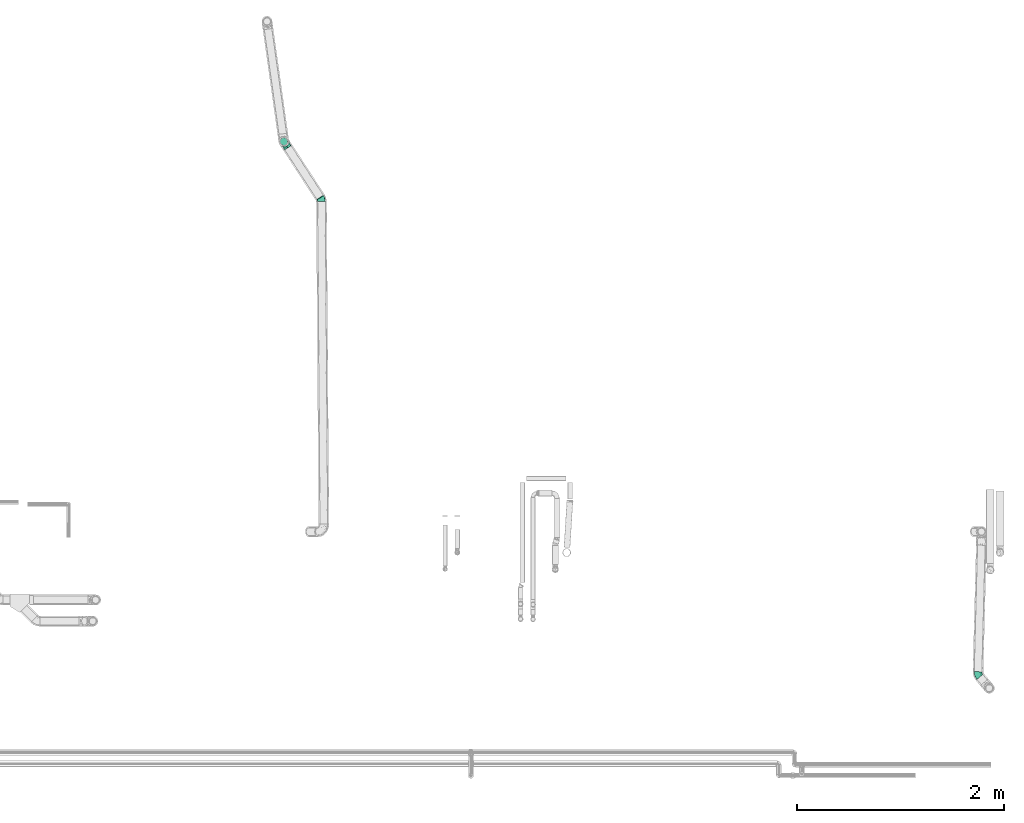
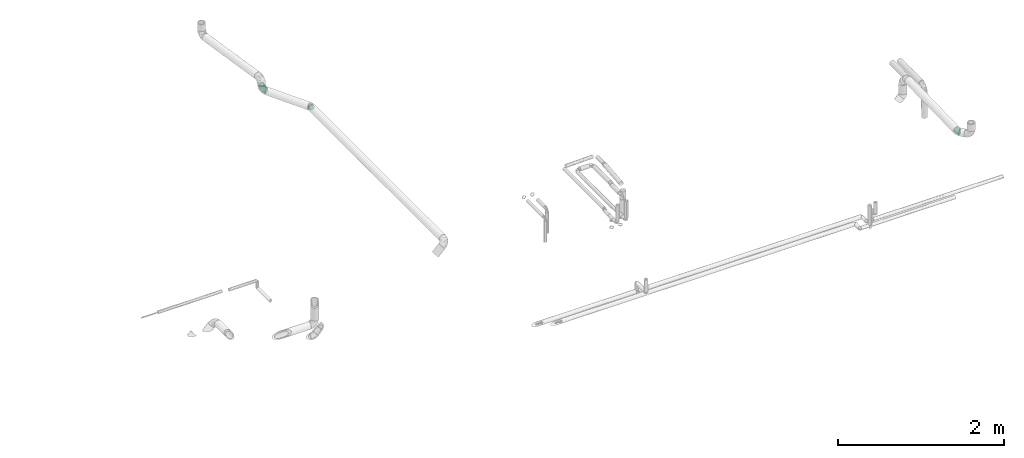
# One storey, part 145 of 156: 3 flow fittings.
"""IFC2X3 building model written with IfcOpenShell, lengths in millimetres."""

from ifc_helpers import new_model, entity, si_unit, converted_unit, derived_unit, direction, frame, origin_with_axes, place, context, subcontext, project, spatial, open_shell, surface_model, source, transform, mapped, type_object, element, save


model = new_model("IFC2X3")

# Units and contexts
model_context = context("Model", 3, precision=0.01, world=frame((0.0, 4.29681676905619e-09, 0.0)), true_north=direction((4.01073788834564e-13, 1.0)))
plan_context = context("Plan", 3, precision=0.01, world=frame((0.0, 4.29681676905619e-09, 0.0)), true_north=direction((4.01073788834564e-13, 1.0)))
body_context = subcontext(model_context, "Body", "Model", "MODEL_VIEW")
ifc_project = project(units=[converted_unit("PLANEANGLEUNIT", "DEGREE", entity("IfcPositiveLengthMeasure", 0.0174532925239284), si_unit("PLANEANGLEUNIT", "RADIAN"), dimensions=[0, 0, 0, 0, 0, 0, 0]), si_unit("AREAUNIT", "SQUARE_METRE"), si_unit("LENGTHUNIT", "METRE", prefix="MILLI"), si_unit("MASSUNIT", "GRAM", prefix="KILO"), si_unit("POWERUNIT", "WATT"), si_unit("PRESSUREUNIT", "PASCAL", prefix="KILO"), si_unit("FORCEUNIT", "NEWTON", prefix="KILO"), si_unit("ELECTRICVOLTAGEUNIT", "VOLT"), si_unit("ELECTRICCURRENTUNIT", "AMPERE"), si_unit("THERMODYNAMICTEMPERATUREUNIT", "DEGREE_CELSIUS"), si_unit("TIMEUNIT", "SECOND"), si_unit("VOLUMEUNIT", "CUBIC_METRE"), derived_unit("LINEARVELOCITYUNIT", [(si_unit("LENGTHUNIT", "METRE"), 1), (si_unit("TIMEUNIT", "SECOND"), -1)]), derived_unit("VOLUMETRICFLOWRATEUNIT", [(si_unit("VOLUMEUNIT", "CUBIC_METRE"), 1), (si_unit("TIMEUNIT", "SECOND"), -1)]), derived_unit("THERMALTRANSMITTANCEUNIT", [(si_unit("POWERUNIT", "WATT"), 1), (si_unit("THERMODYNAMICTEMPERATUREUNIT", "KELVIN"), -1), (si_unit("AREAUNIT", "SQUARE_METRE"), -1)]), derived_unit("SOUNDPRESSUREUNIT", [(si_unit("PRESSUREUNIT", "PASCAL"), 1)])], contexts=[model_context, plan_context])

# Site, building, storey
site_placement = place(None, frame((0.0, -4.29681676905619e-09, 0.0), z_axis=(0.0, 0.0, 1.0), x_axis=(1.0, 0.0, 0.0)))
site = spatial("IfcSite", under=ifc_project, at=site_placement, CompositionType="ELEMENT")
building_placement = place(site_placement, frame((0.0, 4.29681676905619e-09, 0.0), z_axis=(0.0, 0.0, 1.0), x_axis=(1.0, 0.0, 0.0)))
building = spatial("IfcBuilding", under=site, at=building_placement, Name="mc-building", CompositionType="ELEMENT")
storey_placement = place(building_placement, frame((0.0, 0.0, 205200.0), z_axis=(0.0, 0.0, 1.0), x_axis=(1.0, 0.0, 0.0)))
storey = spatial("IfcBuildingStorey", under=building, at=storey_placement, Name="Nivå D + 1,2 m", CompositionType="ELEMENT", Elevation=205200.0)

# Flow fittings
pipe_fitting_type = type_object("IfcPipeFittingType", Name="magi_pipe_elbow_short_001", PredefinedType="BEND")
shared_shape_1 = source(origin_with_axes(), body_context, "Body", "SurfaceModel", [
    surface_model("IfcShellBasedSurfaceModel", [(-28.41763, 18.75, -32.47595), (-28.41763, 9.70571, -36.22222), (-28.41763, 0.0, -37.5), (-28.41763, 26.5165, -26.5165), (-28.41763, 36.22222, -9.70571), (-28.41763, 32.47595, -18.75), (-28.41763, -26.5165, -26.5165), (-28.41763, -32.47595, -18.75), (-28.41763, -18.75, -32.47595), (-28.41763, -9.70571, -36.22222), (-28.41763, -36.22222, -9.70571), (-28.41763, -37.5, 0.0), (-28.41763, -36.22222, 9.70571), (-28.41763, 36.22222, 9.70571), (-28.41763, 37.5, 0.0), (-28.41763, 26.5165, 26.5165), (-28.41763, 32.47595, 18.75), (-28.41763, 9.70571, 36.22222), (-28.41763, 18.75, 32.47595), (-28.41763, 0.0, 37.5), (-28.41763, -32.47595, 18.75), (-28.41763, -26.5165, 26.5165), (-28.41763, -18.75, 32.47595), (-28.41763, -9.70571, 36.22222), (21.28237, 18.83142, -37.5), (14.85072, 26.10017, -36.22222), (8.85737, 32.87356, -32.47595), (3.71077, 38.69001, -26.5165), (-0.23836, 43.15313, -18.75), (-2.72089, 45.95876, -9.70571), (42.80311, -5.49029, -18.75), (3.71077, 38.69001, 26.5165), (27.71403, 11.56267, -36.22222), (38.85398, -1.02718, -26.5165), (33.70737, 4.78927, -32.47595), (45.28563, -8.29592, -9.70571), (45.28563, -8.29592, 9.70571), (46.13238, -9.25287, 0.0), (-3.56763, 46.91571, 0.0), (-2.72089, 45.95876, 9.70571), (-0.23836, 43.15313, 18.75), (8.85737, 32.87356, 32.47595), (14.85072, 26.10017, 36.22222), (38.85398, -1.02718, 26.5165), (42.80311, -5.49029, 18.75), (33.70737, 4.78927, 32.47595), (21.28237, 18.83142, 37.5), (27.71403, 11.56267, 36.22222), (-10.798, -28.82446, 22.0821), (-5.33206, -32.6567, 13.18915), (9.11839, -24.06531, 21.19155), (-9.84929, -35.24731, 0.0), (-1.51679, -34.23642, 0.0), (-6.41198, -34.73324, 6.58129), (-6.68397, -21.31096, 29.03459), (27.18779, -14.43158, 22.0821), (-13.74781, -13.87457, 34.33555), (3.81193, -10.06046, 33.93339), (9.63082, 15.35913, 37.25771), (-9.27145, -3.65719, 37.02434), (-3.04953, 8.04834, 37.34523), (-17.39064, 5.12064, 37.25771), (19.12779, -11.53084, 29.03459), (19.49014, -1.28065, 34.33555), (-12.15612, 15.60061, 35.01843), (-9.57942, 25.28207, 30.48899), (12.69398, -26.25669, 15.19306), (11.08214, -29.24806, 8.68485), (-10.76397, 32.65979, 23.6194), (-13.98235, 36.90231, 15.24979), (27.81859, -21.76322, 6.58129), (30.73349, -19.87042, 0.0), (-14.31275, 39.37123, 7.79517), (25.63376, -20.92369, 13.18915), (10.15962, 3.88702, 37.03251), (2.04407, 21.73015, 34.93309), (-15.13062, 39.93284, 0.0), (11.15324, -29.43572, 0.0), (23.82328, -24.63502, 0.0), (-10.18448, -3.8214, -37.03251), (-6.41198, -34.73324, -6.58129), (11.08214, -29.24806, -8.68485), (9.36702, 3.40496, -37.02434), (-17.39064, 5.12064, -37.25771), (-13.58127, 31.59231, -23.6194), (-9.57942, 25.28207, -30.48899), (19.12779, -11.53084, -29.03459), (25.63377, -20.92369, -13.18915), (-15.37098, 38.97027, -7.79517), (-13.98235, 36.90231, -15.24979), (-1.23411, 19.73898, -35.01843), (-15.93068, 14.91949, -34.93309), (-5.33206, -32.6567, -13.18915), (27.18779, -14.43158, -22.0821), (-10.798, -28.82446, -22.0821), (9.11839, -24.06531, -21.19155), (7.89273, -28.0759, -15.19306), (-6.68397, -21.31096, -29.03459), (-13.74781, -13.87457, -34.33555), (19.49014, -1.28065, -34.33555), (3.81193, -10.06046, -33.93339), (-3.04953, 8.04834, -37.34523), (27.81859, -21.76322, -6.58129), (9.63082, 15.35912, -37.25771)], [open_shell([[[0, 1, 2]], [[3, 0, 2]], [[4, 5, 3]], [[6, 3, 2]], [[4, 3, 7]], [[8, 6, 9]], [[6, 2, 9]], [[10, 11, 7]], [[3, 6, 7]], [[7, 11, 12]], [[12, 4, 7]], [[13, 14, 15]], [[16, 13, 15]], [[17, 18, 15]], [[14, 17, 15]], [[19, 17, 14]], [[20, 21, 12]], [[22, 12, 21]], [[23, 19, 22]], [[12, 22, 19]], [[19, 14, 12]], [[4, 12, 14]], [[24, 25, 26]], [[24, 26, 27]], [[27, 28, 29]], [[24, 27, 30]], [[31, 30, 27]], [[32, 33, 34]], [[32, 24, 33]], [[35, 36, 37]], [[33, 24, 30]], [[35, 30, 36]], [[38, 27, 29]], [[27, 39, 31]], [[31, 39, 40]], [[31, 41, 42]], [[42, 30, 31]], [[30, 42, 36]], [[36, 43, 44]], [[43, 36, 45]], [[45, 46, 47]], [[46, 45, 36]], [[36, 42, 46]], [[27, 38, 39]], [[48, 49, 50]], [[51, 52, 53]], [[22, 21, 54]], [[44, 43, 55]], [[56, 54, 57]], [[48, 21, 20]], [[46, 42, 58]], [[23, 22, 56]], [[59, 60, 61]], [[19, 23, 59]], [[62, 55, 43]], [[45, 47, 63]], [[61, 17, 19]], [[18, 64, 65]], [[12, 51, 53]], [[41, 31, 65]], [[66, 49, 67]], [[65, 15, 18]], [[48, 54, 21]], [[68, 15, 65]], [[13, 16, 69]], [[36, 70, 71]], [[72, 14, 13]], [[73, 66, 67]], [[49, 53, 67]], [[18, 17, 64]], [[74, 60, 59]], [[43, 45, 62]], [[15, 68, 16]], [[74, 47, 46]], [[40, 39, 69]], [[73, 44, 55]], [[60, 58, 75]], [[62, 45, 63]], [[68, 69, 16]], [[70, 36, 73]], [[49, 48, 20]], [[61, 64, 17]], [[55, 62, 50]], [[13, 69, 72]], [[20, 12, 49]], [[76, 72, 38]], [[54, 62, 57]], [[39, 72, 69]], [[57, 74, 59]], [[31, 40, 68]], [[57, 63, 74]], [[68, 65, 31]], [[74, 46, 58]], [[42, 41, 75]], [[75, 65, 64]], [[56, 59, 23]], [[69, 68, 40]], [[73, 36, 44]], [[54, 48, 50]], [[62, 54, 50]], [[55, 50, 66]], [[54, 56, 22]], [[59, 56, 57]], [[74, 63, 47]], [[62, 63, 57]], [[65, 75, 41]], [[60, 75, 64]], [[12, 11, 51]], [[67, 53, 52]], [[12, 53, 49]], [[77, 78, 67]], [[67, 78, 70]], [[71, 70, 78]], [[71, 37, 36]], [[67, 70, 73]], [[59, 61, 19]], [[64, 61, 60]], [[75, 58, 42]], [[74, 58, 60]], [[38, 72, 39]], [[72, 76, 14]], [[55, 66, 73]], [[49, 66, 50]], [[67, 52, 77]], [[9, 2, 79]], [[80, 81, 52]], [[24, 32, 82]], [[2, 1, 83]], [[84, 85, 3]], [[34, 33, 86]], [[5, 84, 3]], [[30, 35, 87]], [[4, 88, 89]], [[26, 25, 90]], [[10, 80, 51]], [[1, 0, 91]], [[80, 10, 92]], [[87, 93, 30]], [[94, 95, 96]], [[94, 92, 7]], [[6, 8, 97]], [[97, 86, 95]], [[10, 7, 92]], [[6, 94, 7]], [[98, 8, 9]], [[99, 82, 32]], [[89, 84, 5]], [[100, 98, 79]], [[14, 76, 88]], [[97, 94, 6]], [[38, 29, 88]], [[100, 79, 82]], [[27, 26, 85]], [[89, 5, 4]], [[84, 27, 85]], [[98, 97, 8]], [[90, 85, 26]], [[101, 82, 79]], [[85, 90, 91]], [[3, 85, 0]], [[35, 71, 102]], [[103, 25, 24]], [[99, 32, 34]], [[96, 87, 81]], [[30, 93, 33]], [[100, 99, 86]], [[93, 86, 33]], [[101, 103, 82]], [[95, 93, 87]], [[79, 2, 83]], [[102, 71, 78]], [[103, 90, 25]], [[101, 83, 91]], [[80, 92, 81]], [[94, 97, 95]], [[86, 97, 100]], [[29, 28, 89]], [[29, 89, 88]], [[84, 89, 28]], [[27, 84, 28]], [[86, 93, 95]], [[79, 98, 9]], [[97, 98, 100]], [[86, 99, 34]], [[82, 99, 100]], [[85, 91, 0]], [[101, 91, 90]], [[51, 80, 52]], [[51, 11, 10]], [[96, 81, 92]], [[102, 81, 87]], [[102, 78, 81]], [[35, 37, 71]], [[52, 81, 77]], [[35, 102, 87]], [[91, 83, 1]], [[79, 83, 101]], [[82, 103, 24]], [[90, 103, 101]], [[14, 88, 4]], [[88, 76, 38]], [[94, 96, 92]], [[87, 96, 95]], [[81, 78, 77]]])]),
])
flow_fitting_1_placement = place(storey_placement, frame((347928.57176, 459787.38101, 4377.40570999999), z_axis=(0.0138610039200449, 0.0116310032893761, 0.999836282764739), x_axis=(-0.0261559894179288, -0.999585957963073, 0.0119906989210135)))
element("IfcFlowFitting", 1, at=flow_fitting_1_placement, inside=storey, type_object=pipe_fitting_type, Name="magi_pipe_elbow_short_001", context=body_context, shape_type="MappedRepresentation", body=[
    mapped(shared_shape_1, transform((0.0, 0.0, 0.0), scale=1.0)),
])
shared_shape_2 = source(origin_with_axes(), body_context, "Body", "SurfaceModel", [
    surface_model("IfcShellBasedSurfaceModel", [(-22.01566, 18.75, -32.47595), (-22.01566, 9.70571, -36.22222), (-22.01566, 0.0, -37.5), (-22.01566, 26.5165, -26.5165), (-22.01566, 36.22222, -9.70571), (-22.01566, 32.47595, -18.75), (-22.01566, -26.5165, -26.5165), (-22.01566, -32.47595, -18.75), (-22.01566, -18.75, -32.47595), (-22.01566, -9.70571, -36.22222), (-22.01566, -36.22222, -9.70571), (-22.01566, -37.5, 0.0), (-22.01566, -36.22222, 9.70571), (-22.01566, 36.22222, 9.70571), (-22.01566, 37.5, 0.0), (-22.01566, 26.5165, 26.5165), (-22.01566, 32.47595, 18.75), (-22.01566, 9.70571, 36.22222), (-22.01566, 18.75, 32.47595), (-22.01566, 0.0, 37.5), (-22.01566, -32.47595, 18.75), (-22.01566, -26.5165, 26.5165), (-22.01566, -18.75, 32.47595), (-22.01566, -9.70571, 36.22222), (18.5226, 11.89969, -37.5), (13.27656, 20.06547, -36.22222), (8.38803, 27.67476, -32.47595), (4.19016, 34.20902, -26.5165), (0.96902, 39.22292, -18.75), (32.85504, -10.40964, -26.5165), (38.10108, -18.57543, 9.70571), (23.76864, 3.7339, -36.22222), (28.65716, -3.87539, -32.47595), (38.10108, -18.57543, -9.70571), (36.07618, -15.42355, -18.75), (38.79173, -19.65047, 0.0), (-1.05588, 42.3748, -9.70571), (4.19016, 34.20902, 26.5165), (-1.74653, 43.44984, 0.0), (-1.05588, 42.3748, 9.70571), (0.96902, 39.22292, 18.75), (8.38803, 27.67476, 32.47595), (13.27656, 20.06547, 36.22222), (18.5226, 11.89969, 37.5), (32.85504, -10.40964, 26.5165), (36.07618, -15.42355, 18.75), (28.65716, -3.87539, 32.47595), (23.76864, 3.7339, 36.22222), (-8.87768, -29.2574, 22.39034), (-2.48765, -21.51797, 29.24444), (3.43377, -11.69771, 34.21184), (20.66878, -19.35894, 24.29669), (-4.25907, -3.69487, 37.06837), (-3.51938, -34.84137, 0.0), (2.81839, -34.12159, 6.6158), (-2.00913, 6.84445, 37.2894), (-1.75195, -33.08449, 13.54681), (7.699, -26.22792, 21.81873), (9.71094, -3.15427, 36.31605), (-9.15125, 31.17525, 23.37151), (-7.14766, 24.34971, 30.21341), (19.74477, -26.72271, 13.56362), (16.36217, -15.58472, 29.32008), (-11.45348, 39.01819, 0.0), (-10.58265, 36.05156, 14.91061), (-3.45693, 16.49394, 34.93879), (9.67087, -32.94542, 0.0), (25.59839, -26.17608, 7.10936), (21.7931, -27.41109, 0.0), (7.05401, 3.45293, 37.43381), (-6.46526, -7.90267, -36.31605), (-7.80115, -0.90768, -37.43381), (17.18651, -29.80928, -6.67672), (5.58043, -0.80656, -37.06837), (-2.00913, 6.84444, -37.2894), (-9.15125, 31.17525, -23.37151), (2.81545, -34.1155, -6.65247), (-7.14767, 24.3497, -30.21342), (19.35648, -26.88828, -13.54681), (-10.58265, 36.05156, -14.91061), (13.72363, -16.75927, -29.24444), (-5.34241, -21.95593, -29.32008), (-6.92572, -27.45909, -24.29669), (-6.0067, 15.74548, -34.93879), (-2.16812, -33.15506, -13.56362), (7.699, -26.22792, -21.81873), (3.43377, -11.69771, -34.21184), (23.28304, -19.81688, -22.39034)], [open_shell([[[0, 1, 2]], [[3, 0, 2]], [[4, 5, 3]], [[6, 3, 2]], [[4, 3, 7]], [[8, 6, 9]], [[6, 2, 9]], [[10, 11, 7]], [[3, 6, 7]], [[7, 11, 12]], [[12, 4, 7]], [[13, 14, 15]], [[16, 13, 15]], [[17, 18, 15]], [[14, 17, 15]], [[19, 17, 14]], [[20, 21, 12]], [[22, 12, 21]], [[23, 19, 22]], [[12, 22, 19]], [[19, 14, 12]], [[4, 12, 14]], [[24, 25, 26]], [[24, 26, 27]], [[24, 28, 29]], [[28, 24, 27]], [[29, 28, 30]], [[31, 29, 32]], [[31, 24, 29]], [[29, 33, 34]], [[33, 29, 30]], [[30, 35, 33]], [[28, 36, 30]], [[37, 38, 39]], [[37, 39, 40]], [[37, 41, 42]], [[38, 37, 30]], [[43, 37, 42]], [[30, 44, 45]], [[44, 30, 46]], [[46, 43, 47]], [[43, 46, 30]], [[30, 37, 43]], [[38, 30, 36]], [[20, 48, 21]], [[49, 50, 22]], [[22, 21, 49]], [[44, 51, 45]], [[19, 23, 52]], [[23, 22, 50]], [[12, 53, 54]], [[52, 55, 19]], [[19, 55, 17]], [[43, 42, 55]], [[48, 56, 57]], [[47, 58, 46]], [[15, 59, 16]], [[60, 15, 18]], [[61, 56, 54]], [[61, 45, 51]], [[62, 51, 44]], [[63, 13, 39]], [[20, 12, 56]], [[63, 14, 13]], [[13, 16, 64]], [[60, 65, 41]], [[17, 55, 65]], [[48, 49, 21]], [[66, 54, 53]], [[67, 66, 68]], [[58, 69, 52]], [[46, 62, 44]], [[37, 40, 59]], [[69, 58, 47]], [[67, 35, 30]], [[56, 61, 57]], [[61, 67, 30]], [[49, 62, 50]], [[12, 54, 56]], [[59, 64, 16]], [[67, 54, 66]], [[12, 11, 53]], [[39, 13, 64]], [[38, 63, 39]], [[58, 52, 50]], [[23, 50, 52]], [[57, 62, 49]], [[42, 65, 55]], [[41, 37, 60]], [[37, 59, 60]], [[50, 62, 46]], [[59, 40, 64]], [[42, 41, 65]], [[65, 60, 18]], [[60, 59, 15]], [[45, 61, 30]], [[40, 39, 64]], [[17, 65, 18]], [[62, 57, 51]], [[51, 57, 61]], [[56, 48, 20]], [[49, 48, 57]], [[46, 58, 50]], [[69, 47, 43]], [[43, 55, 69]], [[55, 52, 69]], [[54, 67, 61]], [[35, 67, 68]], [[70, 9, 71]], [[33, 68, 72]], [[24, 31, 73]], [[2, 1, 74]], [[75, 3, 5]], [[10, 76, 53]], [[3, 75, 77]], [[34, 33, 78]], [[79, 4, 36]], [[32, 29, 80]], [[81, 82, 6]], [[1, 83, 74]], [[76, 10, 84]], [[75, 79, 28]], [[36, 28, 79]], [[85, 78, 84]], [[8, 81, 6]], [[25, 83, 26]], [[7, 84, 10]], [[82, 7, 6]], [[8, 9, 70]], [[70, 73, 86]], [[85, 81, 80]], [[27, 26, 77]], [[4, 14, 63]], [[33, 35, 68]], [[63, 38, 36]], [[86, 81, 8]], [[78, 72, 76]], [[79, 5, 4]], [[75, 28, 27]], [[86, 80, 81]], [[25, 74, 83]], [[71, 73, 70]], [[1, 0, 83]], [[3, 77, 0]], [[84, 7, 82]], [[24, 74, 25]], [[86, 31, 32]], [[87, 80, 29]], [[77, 83, 0]], [[32, 80, 86]], [[78, 85, 87]], [[83, 77, 26]], [[72, 66, 76]], [[77, 75, 27]], [[53, 76, 66]], [[87, 29, 34]], [[31, 86, 73]], [[74, 24, 73]], [[53, 11, 10]], [[4, 63, 36]], [[78, 76, 84]], [[75, 5, 79]], [[81, 85, 82]], [[82, 85, 84]], [[78, 87, 34]], [[80, 87, 85]], [[8, 70, 86]], [[71, 9, 2]], [[2, 74, 71]], [[74, 73, 71]], [[33, 72, 78]], [[66, 72, 68]]])]),
])
flow_fitting_2_placement = place(storey_placement, frame((341591.27609, 464375.53834, 4178.01248999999), z_axis=(0.110567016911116, -0.0110580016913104, 0.993807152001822), x_axis=(-0.00728705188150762, 0.99990220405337, 0.0119365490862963)))
element("IfcFlowFitting", 2, at=flow_fitting_2_placement, inside=storey, type_object=pipe_fitting_type, Name="magi_pipe_elbow_short_001", context=body_context, shape_type="MappedRepresentation", body=[
    mapped(shared_shape_2, transform((0.0, 0.0, 0.0), scale=1.0)),
])
shared_shape_3 = source(origin_with_axes(), body_context, "Body", "SurfaceModel", [
    surface_model("IfcShellBasedSurfaceModel", [(-69.93863, 18.75, -32.47595), (-69.93863, 9.70571, -36.22222), (-69.93863, 0.0, -37.5), (-69.93863, 26.5165, -26.5165), (-69.93863, 36.22222, -9.70571), (-69.93863, 32.47595, -18.75), (-69.93863, -26.5165, -26.5165), (-69.93863, -32.47595, -18.75), (-69.93863, -18.75, -32.47595), (-69.93863, -9.70571, -36.22222), (-69.93863, -36.22222, -9.70571), (-69.93863, -37.5, 0.0), (-69.93863, -36.22222, 9.70571), (-69.93863, 36.22222, 9.70571), (-69.93863, 37.5, 0.0), (-69.93863, 26.5165, 26.5165), (-69.93863, 32.47595, 18.75), (-69.93863, 9.70571, 36.22222), (-69.93863, 18.75, 32.47595), (-69.93863, 0.0, 37.5), (-69.93863, -32.47595, 18.75), (-69.93863, -26.5165, 26.5165), (-69.93863, -18.75, 32.47595), (-69.93863, -9.70571, 36.22222), (4.87867, 69.76827, -37.5), (-4.8034, 70.4453, -36.22222), (-13.82565, 71.0762, -32.47595), (-21.57324, 71.61796, -26.5165), (-21.57324, 71.61796, 26.5165), (-27.51817, 72.03367, -18.75), (31.33058, 67.91857, -26.5165), (-4.8034, 70.4453, 36.22222), (37.27552, 67.50286, -18.75), (14.56074, 69.09123, -36.22222), (23.583, 68.46033, -32.47595), (42.28733, 67.1524, 0.0), (41.01265, 67.24153, -9.70571), (41.01265, 67.24153, 9.70571), (-31.25531, 72.295, -9.70571), (-32.52998, 72.38413, 0.0), (-31.25531, 72.295, 9.70571), (-27.51817, 72.03367, 18.75), (-13.82565, 71.0762, 32.47595), (4.87867, 69.76827, 37.5), (31.33058, 67.91857, 26.5165), (37.27552, 67.50286, 18.75), (14.56074, 69.09123, 36.22222), (23.583, 68.46033, 32.47595), (-45.69338, -32.87098, 11.89901), (-50.03256, -29.09382, 21.1302), (-36.67148, -32.46882, 0.0), (-51.46898, -34.70673, 0.0), (12.45376, -0.53139, 7.34163), (-0.72944, -12.73742, 7.4689), (5.92352, -6.3522, 0.0), (-51.44542, 5.17105, 37.39802), (-47.00572, 16.00336, 35.62712), (22.98598, 13.85218, 9.64412), (18.22688, 5.12087, 0.0), (-49.90347, -14.08102, 33.76915), (-25.53856, -9.46245, 31.45172), (-33.86322, -0.72386, 36.4339), (-43.19053, -21.36148, 27.9464), (-15.42185, -21.96371, 9.64412), (-21.52566, -25.14704, 0.0), (-6.37984, -17.82527, 0.0), (-4.46662, 4.78987, 31.06831), (-10.33963, -9.54757, 24.43929), (-32.49049, 57.95711, 16.12505), (-1.5698, 51.68082, 37.39802), (-12.68542, 48.00755, 35.62712), (-7.3866, 21.60948, 36.7946), (-15.19962, 6.66636, 35.33591), (-0.67838, 17.83903, 34.45515), (-57.55009, 22.99743, 30.69505), (-42.98231, 27.43131, 31.5146), (-53.11753, -4.98001, 36.8912), (-20.07206, 15.20376, 37.39074), (-10.57772, 34.57872, 37.36462), (-53.31894, 40.31849, 8.42231), (-55.54951, 36.45422, 16.12505), (24.32226, 41.59522, 27.9464), (-53.14599, 31.44077, 24.58569), (-36.62046, 39.9868, 26.36458), (-44.22612, 39.71272, 20.59485), (-34.82766, 48.00168, 21.52219), (-35.12813, 12.61591, 37.33055), (17.52781, 48.79966, 33.76915), (32.51304, 47.88119, 21.1302), (24.61256, 24.02032, 18.84819), (35.97831, 43.2891, 11.89901), (-27.48708, 55.68406, 24.53426), (-30.15121, -27.91903, 12.53756), (8.67317, 52.64075, 36.8912), (-42.54075, 45.61938, 13.90416), (-35.40213, 58.27675, 8.04145), (-43.1772, 47.98771, 6.24805), (31.40066, 27.8753, 7.41095), (34.9478, 34.31724, 0.0), (38.21248, 48.92259, 0.0), (-25.67869, -22.87703, 18.84819), (-51.94939, 42.09655, 0.0), (18.77506, 23.90332, 25.62745), (11.22088, 24.81628, 31.45172), (9.42594, 7.8315, 23.80813), (-38.3702, 54.75935, 0.0), (-26.05749, -16.53932, 26.51945), (-29.82949, 32.78482, 33.54184), (-23.94639, 45.64685, 31.44032), (-18.82404, 59.54084, 30.6552), (-36.02464, 23.1457, 35.15971), (26.58734, 19.71905, 0.0), (-24.76423, 26.55638, 36.46207), (3.08428, 33.73024, 36.4339), (-9.56044, -15.39665, 16.4356), (4.82568, -5.17491, 14.39912), (16.02605, 8.46313, 16.43559), (-53.63102, 31.30445, -24.53426), (-26.25452, -17.83023, -25.39215), (-25.53856, -9.46245, -31.45172), (-10.33963, -9.54757, -24.43929), (-51.44542, 5.17105, -37.39802), (17.52781, 48.79966, -33.76915), (11.22088, 24.81628, -31.45172), (3.08428, 33.73024, -36.4339), (-47.00572, 16.00336, -35.62712), (-27.65691, 55.20973, -24.58569), (-55.66527, 39.38108, -8.04144), (18.25428, 23.82543, -26.06047), (24.32226, 41.59522, -27.9464), (-42.54076, 45.61938, -13.90415), (-55.54951, 36.45422, -16.12505), (12.45376, -0.53139, -7.34163), (-0.72944, -12.73742, -7.4689), (4.82568, -5.17491, -14.39912), (-43.86525, 27.07223, -31.44032), (-30.62415, 32.04378, -33.54184), (9.42595, 7.8315, -23.80813), (-21.04158, 8.87601, -36.7946), (-5.58985, 15.62762, -35.33591), (-17.74826, 1.92111, -34.45515), (-58.0827, 22.93154, -30.6552), (-45.69338, -32.87098, -11.89901), (-37.33488, 39.32059, -26.36458), (-50.03256, -29.09382, -21.1302), (-15.42185, -21.96371, -9.64412), (-36.53093, 46.8886, -20.59485), (-45.4553, 38.09125, -21.5222), (-49.90347, -14.08102, -33.76915), (-53.11753, -4.98001, -36.8912), (-25.67869, -22.87703, -18.84819), (-24.36619, 44.79112, -31.5146), (-12.68542, 48.00755, -35.62712), (-20.57637, 37.55144, -35.15971), (-36.50094, 56.00154, -8.42231), (-44.85893, 46.41948, -6.24805), (-32.49049, 57.95711, -16.12505), (-1.5698, 51.68082, -37.39802), (-18.92692, 59.01412, -30.69505), (35.97831, 43.2891, -11.89901), (32.51304, 47.88119, -21.1302), (8.67317, 52.64075, -36.8912), (-43.19053, -21.36148, -27.9464), (-13.76657, 21.08372, -37.39074), (-33.75662, 12.96404, -37.36462), (-10.13476, 35.9226, -37.33055), (22.98598, 13.85217, -9.64412), (-29.9978, -29.37969, -7.41095), (29.95426, 28.13023, -12.53756), (24.61256, 24.02032, -18.84819), (-24.76423, 26.55638, -36.46207), (-33.86322, -0.72386, -36.4339), (-4.46662, 4.78986, -31.06831), (-9.56044, -15.39665, -16.43559), (16.02605, 8.46313, -16.43559)], [open_shell([[[0, 1, 2]], [[3, 0, 2]], [[4, 5, 3]], [[6, 3, 2]], [[4, 3, 7]], [[8, 6, 9]], [[6, 2, 9]], [[10, 11, 7]], [[3, 6, 7]], [[7, 11, 12]], [[12, 4, 7]], [[13, 14, 15]], [[16, 13, 15]], [[17, 18, 15]], [[14, 17, 15]], [[19, 17, 14]], [[20, 21, 12]], [[22, 12, 21]], [[23, 19, 22]], [[12, 22, 19]], [[19, 14, 12]], [[4, 12, 14]], [[24, 25, 26]], [[24, 26, 27]], [[28, 27, 29]], [[24, 27, 30]], [[31, 32, 27]], [[33, 30, 34]], [[33, 24, 30]], [[32, 35, 36]], [[30, 27, 32]], [[32, 37, 35]], [[38, 39, 29]], [[28, 29, 40]], [[28, 40, 41]], [[28, 42, 31]], [[31, 27, 28]], [[32, 31, 43]], [[37, 44, 45]], [[44, 37, 43]], [[44, 46, 47]], [[46, 44, 43]], [[32, 43, 37]], [[40, 29, 39]], [[48, 49, 20]], [[50, 48, 51]], [[52, 53, 54]], [[48, 20, 12]], [[12, 51, 48]], [[17, 55, 56]], [[21, 20, 49]], [[57, 52, 58]], [[59, 60, 61]], [[62, 22, 21]], [[62, 59, 22]], [[63, 64, 65]], [[66, 60, 67]], [[68, 41, 40]], [[69, 31, 70]], [[17, 56, 18]], [[71, 72, 73]], [[74, 56, 75]], [[23, 76, 19]], [[77, 71, 78]], [[79, 13, 80]], [[80, 13, 16]], [[81, 44, 47]], [[14, 13, 79]], [[82, 83, 84]], [[84, 83, 85]], [[83, 82, 75]], [[56, 55, 86]], [[47, 87, 81]], [[15, 82, 16]], [[88, 89, 90]], [[91, 41, 68]], [[50, 64, 92]], [[43, 93, 46]], [[94, 95, 96]], [[43, 31, 69]], [[15, 18, 74]], [[90, 37, 45]], [[45, 44, 88]], [[88, 90, 45]], [[97, 98, 90]], [[90, 99, 37]], [[80, 84, 94]], [[49, 100, 62]], [[17, 19, 55]], [[96, 101, 79]], [[102, 103, 104]], [[105, 95, 39]], [[70, 78, 69]], [[95, 94, 68]], [[87, 47, 46]], [[91, 28, 41]], [[106, 60, 62]], [[107, 70, 108]], [[22, 59, 23]], [[109, 42, 28]], [[70, 31, 42]], [[75, 56, 110]], [[81, 87, 103]], [[111, 57, 58]], [[108, 91, 83]], [[91, 108, 109]], [[78, 70, 112]], [[93, 69, 113]], [[76, 55, 19]], [[61, 77, 86]], [[60, 59, 62]], [[76, 59, 61]], [[106, 100, 67]], [[60, 66, 72]], [[93, 87, 46]], [[72, 66, 73]], [[113, 103, 87]], [[103, 66, 104]], [[49, 48, 92]], [[62, 21, 49]], [[44, 81, 88]], [[89, 88, 81]], [[83, 75, 107]], [[109, 70, 42]], [[67, 104, 66]], [[53, 63, 65]], [[82, 15, 74]], [[107, 110, 112]], [[114, 67, 100]], [[115, 116, 104]], [[115, 104, 67]], [[104, 89, 102]], [[82, 80, 16]], [[79, 80, 94]], [[95, 68, 40]], [[84, 85, 94]], [[69, 93, 43]], [[87, 93, 113]], [[59, 76, 23]], [[55, 76, 61]], [[63, 114, 100]], [[63, 92, 64]], [[92, 63, 100]], [[97, 89, 57]], [[97, 57, 111]], [[116, 57, 89]], [[77, 78, 112]], [[113, 69, 78]], [[110, 86, 112]], [[77, 61, 72]], [[12, 11, 51]], [[99, 90, 98]], [[99, 35, 37]], [[79, 101, 14]], [[39, 95, 40]], [[95, 105, 96]], [[61, 86, 55]], [[112, 86, 77]], [[101, 96, 105]], [[94, 96, 79]], [[56, 74, 18]], [[82, 74, 75]], [[60, 72, 61]], [[66, 103, 73]], [[103, 113, 73]], [[71, 73, 113]], [[78, 71, 113]], [[72, 71, 77]], [[82, 84, 80]], [[83, 91, 85]], [[91, 68, 85]], [[94, 85, 68]], [[91, 109, 28]], [[70, 109, 108]], [[54, 58, 52]], [[114, 53, 115]], [[53, 65, 54]], [[116, 52, 57]], [[53, 52, 115]], [[53, 114, 63]], [[67, 114, 115]], [[104, 116, 89]], [[52, 116, 115]], [[70, 107, 112]], [[83, 107, 108]], [[75, 110, 107]], [[86, 110, 56]], [[100, 106, 62]], [[67, 60, 106]], [[89, 81, 102]], [[103, 102, 81]], [[49, 92, 100]], [[92, 48, 50]], [[98, 97, 111]], [[89, 97, 90]], [[5, 117, 3]], [[118, 119, 120]], [[2, 1, 121]], [[122, 123, 124]], [[1, 0, 125]], [[27, 126, 29]], [[101, 127, 14]], [[128, 123, 129]], [[127, 130, 131]], [[132, 133, 134]], [[135, 136, 125]], [[134, 120, 137]], [[138, 139, 140]], [[141, 0, 3]], [[7, 142, 10]], [[34, 122, 33]], [[142, 51, 10]], [[135, 117, 143]], [[142, 7, 144]], [[117, 5, 131]], [[145, 65, 64]], [[146, 143, 147]], [[148, 8, 9]], [[36, 35, 99]], [[149, 9, 2]], [[150, 142, 144]], [[151, 152, 153]], [[117, 135, 141]], [[154, 155, 105]], [[156, 146, 130]], [[39, 38, 154]], [[25, 24, 157]], [[146, 126, 143]], [[25, 157, 152]], [[133, 54, 65]], [[151, 158, 152]], [[152, 26, 25]], [[159, 160, 32]], [[24, 33, 161]], [[5, 4, 131]], [[162, 6, 8]], [[151, 143, 126]], [[163, 138, 164]], [[34, 129, 122]], [[148, 162, 8]], [[154, 38, 156]], [[152, 157, 165]], [[111, 58, 166]], [[30, 32, 160]], [[129, 34, 30]], [[159, 36, 99]], [[162, 148, 119]], [[159, 99, 98]], [[167, 50, 142]], [[98, 111, 168]], [[36, 159, 32]], [[125, 164, 121]], [[121, 1, 125]], [[160, 169, 129]], [[38, 29, 156]], [[27, 26, 158]], [[7, 6, 144]], [[164, 125, 170]], [[149, 121, 171]], [[161, 157, 24]], [[124, 163, 165]], [[149, 148, 9]], [[139, 172, 140]], [[171, 119, 148]], [[119, 172, 120]], [[123, 122, 129]], [[161, 122, 124]], [[128, 169, 137]], [[123, 172, 139]], [[6, 162, 144]], [[150, 144, 162]], [[160, 159, 168]], [[129, 30, 160]], [[143, 151, 136]], [[141, 125, 0]], [[133, 65, 145]], [[150, 118, 120]], [[126, 27, 158]], [[136, 153, 170]], [[137, 120, 172]], [[173, 120, 134]], [[123, 137, 172]], [[137, 169, 174]], [[126, 156, 29]], [[154, 156, 130]], [[127, 131, 4]], [[146, 147, 130]], [[121, 149, 2]], [[148, 149, 171]], [[122, 161, 33]], [[157, 161, 124]], [[167, 150, 145]], [[167, 145, 64]], [[173, 145, 150]], [[166, 174, 169]], [[166, 168, 111]], [[168, 166, 169]], [[163, 164, 170]], [[171, 121, 164]], [[153, 165, 170]], [[163, 124, 139]], [[51, 142, 50]], [[51, 11, 10]], [[130, 127, 155]], [[154, 105, 39]], [[14, 127, 4]], [[127, 101, 155]], [[124, 165, 157]], [[170, 165, 163]], [[105, 155, 101]], [[130, 155, 154]], [[152, 158, 26]], [[126, 158, 151]], [[123, 139, 124]], [[172, 119, 140]], [[119, 171, 140]], [[138, 140, 171]], [[164, 138, 171]], [[139, 138, 163]], [[126, 146, 156]], [[143, 117, 147]], [[117, 131, 147]], [[130, 147, 131]], [[117, 141, 3]], [[125, 141, 135]], [[120, 173, 150]], [[133, 173, 134]], [[173, 133, 145]], [[54, 133, 132]], [[54, 132, 58]], [[174, 132, 134]], [[166, 58, 132]], [[132, 174, 166]], [[137, 174, 134]], [[125, 136, 170]], [[143, 136, 135]], [[151, 153, 136]], [[165, 153, 152]], [[150, 162, 118]], [[119, 118, 162]], [[169, 128, 129]], [[137, 123, 128]], [[50, 167, 64]], [[150, 167, 142]], [[160, 168, 169]], [[168, 159, 98]]])]),
])
flow_fitting_3_placement = place(storey_placement, frame((341228.50699, 464934.15376, 4224.58880999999), z_axis=(0.838670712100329, 0.544638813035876, 0.0), x_axis=(-0.543312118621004, 0.836627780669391, 0.0697559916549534)))
element("IfcFlowFitting", 3, at=flow_fitting_3_placement, inside=storey, type_object=pipe_fitting_type, Name="magi_pipe_elbow_short_001", context=body_context, shape_type="MappedRepresentation", body=[
    mapped(shared_shape_3, transform((0.0, 0.0, 0.0), scale=1.0)),
])

save(model, "model.ifc")
